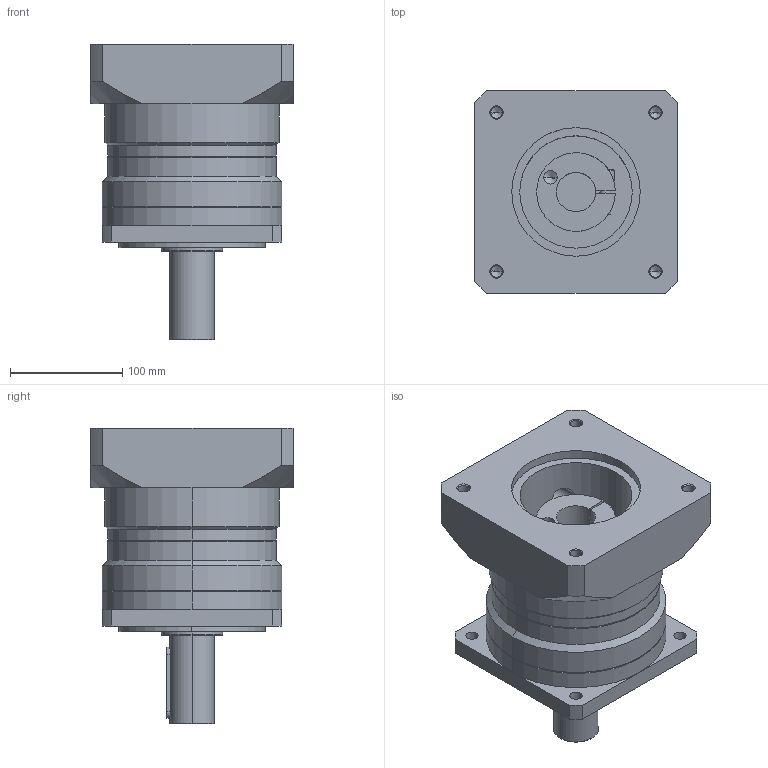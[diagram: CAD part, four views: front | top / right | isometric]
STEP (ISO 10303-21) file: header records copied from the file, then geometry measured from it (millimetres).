
FILE_DESCRIPTION (( 'STEP AP214' ), '1' );
FILE_NAME ('GPBS160单节.STEP', '2019-05-16T12:26:53', ( '个人用户' ), ( '微软中国' ), 'SwSTEP 2.0', 'SolidWorks 2017', '' );
FILE_SCHEMA (( 'AUTOMOTIVE_DESIGN' ));
Length unit declared in the file: millimetre
Products named in the file (1): GPBS160等誹
Bounding box: 180 x 180 x 263 mm (x, y, z)
Volume: 3602600.7 mm3; surface area: 252204.3 mm2
Topology: 1 solids, 1 shells, 163 faces, 381 edges, 226 vertices
Faces by surface type: cylinder 65, plane 45, cone 43, torus 10
Entity records: 4999 total; most frequent: CARTESIAN_POINT 1058, DIRECTION 861, ORIENTED_EDGE 738, EDGE_CURVE 369, AXIS2_PLACEMENT_3D 343, VERTEX_POINT 226, EDGE_LOOP 193, CIRCLE 179
